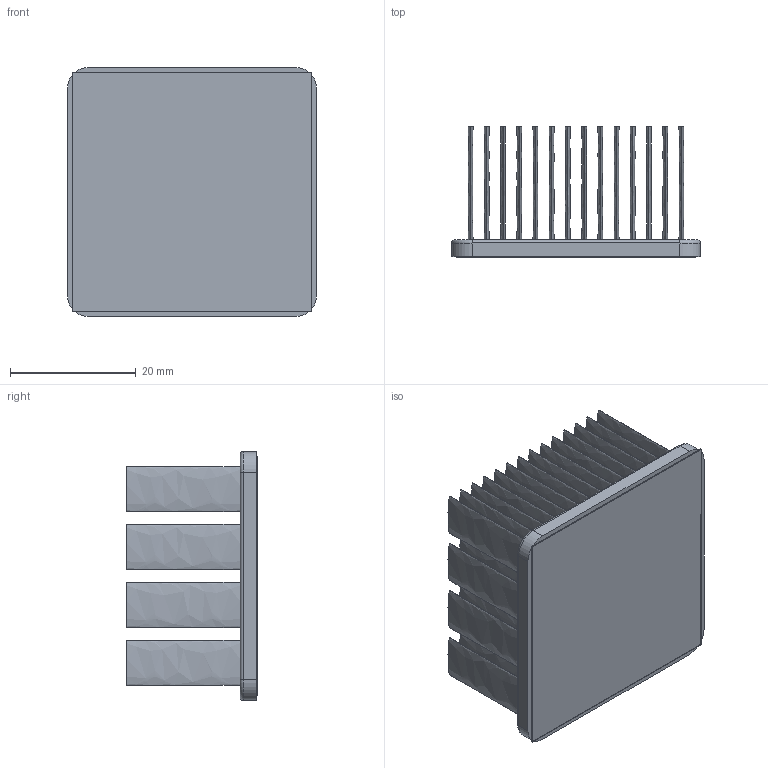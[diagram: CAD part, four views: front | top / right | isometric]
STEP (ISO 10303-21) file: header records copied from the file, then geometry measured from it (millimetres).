
FILE_DESCRIPTION (( 'STEP AP214' ), '1' );
FILE_NAME ('INM40001-21W-2.6.STEP', '2023-02-21T17:40:32', ( '' ), ( '' ), 'SwSTEP 2.0', 'SolidWorks 2020', '' );
FILE_SCHEMA (( 'AUTOMOTIVE_DESIGN' ));
Length unit declared in the file: inch
Products named in the file (1): INM40001-21W-2.6
Bounding box: 39.6 x 20.73 x 39.6 mm (x, y, z)
Volume: 8869.9 mm3; surface area: 21215.7 mm2
Topology: 2 solids, 2 shells, 192 faces, 388 edges, 256 vertices
Faces by surface type: bspline 112, plane 68, cylinder 8, torus 4
Entity records: 7791 total; most frequent: CARTESIAN_POINT 2293, ORIENTED_EDGE 776, EDGE_CURVE 388, DIRECTION 346, VERTEX_POINT 256, EDGE_LOOP 248, LENGTH_MEASURE_WITH_UNIT 196, DIMENSIONAL_EXPONENTS 196
